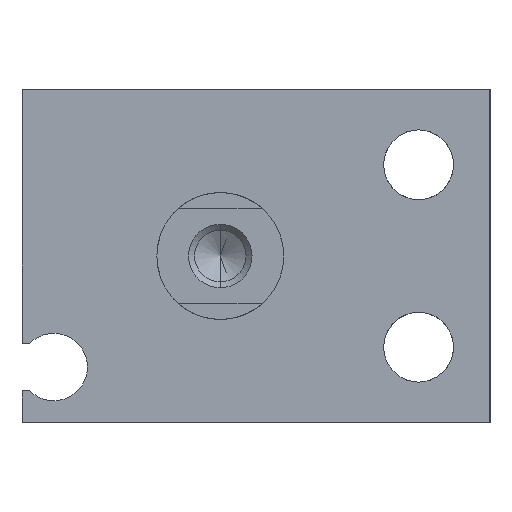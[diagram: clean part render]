
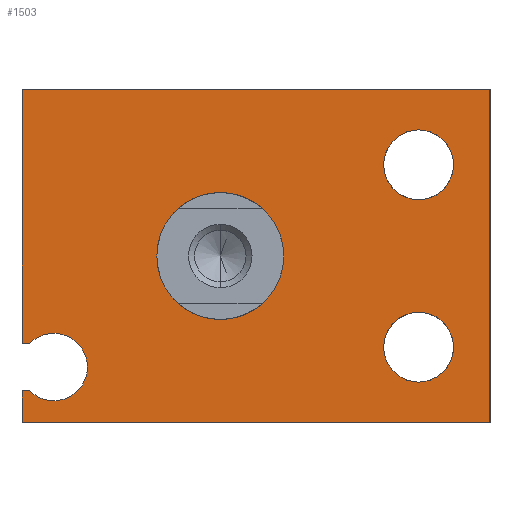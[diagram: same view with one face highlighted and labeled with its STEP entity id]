
A CAD part, left-side view. The second image highlights one B-rep face of the part: STEP entity #1503.
In plain terms, the highlighted planar face has unit normal (-1, 0, 0).
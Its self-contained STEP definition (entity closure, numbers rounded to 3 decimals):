
#4 = DIRECTION ( 'NONE',  ( -1., 0., 0. ) ) ;
#41 = FACE_BOUND ( 'NONE', #933, .T. ) ;
#58 = LINE ( 'NONE', #1511, #1146 ) ;
#78 = CARTESIAN_POINT ( 'NONE',  ( 0., 12.005, -8.5 ) ) ;
#82 = DIRECTION ( 'NONE',  ( 0., 0., 1. ) ) ;
#112 = DIRECTION ( 'NONE',  ( 0., -1., 0. ) ) ;
#120 = EDGE_CURVE ( 'NONE', #1887, #2742, #58, .T. ) ;
#129 = ORIENTED_EDGE ( 'NONE', *, *, #2900, .T. ) ;
#130 = DIRECTION ( 'NONE',  ( 0., 1., 0. ) ) ;
#138 = CARTESIAN_POINT ( 'NONE',  ( 0., 10.5, -4.875 ) ) ;
#153 = DIRECTION ( 'NONE',  ( 0., -1., 0. ) ) ;
#179 = CIRCLE ( 'NONE', #523, 2.2 ) ;
#213 = VERTEX_POINT ( 'NONE', #1525 ) ;
#346 = CIRCLE ( 'NONE', #3059, 2.2 ) ;
#347 = EDGE_CURVE ( 'NONE', #2978, #1825, #346, .T. ) ;
#362 = DIRECTION ( 'NONE',  ( -1., 0., 0. ) ) ;
#364 = LINE ( 'NONE', #1569, #3049 ) ;
#377 = DIRECTION ( 'NONE',  ( 0., 0., -1. ) ) ;
#523 = AXIS2_PLACEMENT_3D ( 'NONE', #2354, #2116, #2686 ) ;
#533 = VECTOR ( 'NONE', #130, 1000. ) ;
#568 = CARTESIAN_POINT ( 'NONE',  ( 0., -17., -10.5 ) ) ;
#576 = EDGE_CURVE ( 'NONE', #2742, #2004, #2969, .T. ) ;
#601 = CARTESIAN_POINT ( 'NONE',  ( 0., 10.5, -7. ) ) ;
#611 = EDGE_CURVE ( 'NONE', #1882, #1281, #740, .T. ) ;
#628 = CARTESIAN_POINT ( 'NONE',  ( 0., 12.5, -5.5 ) ) ;
#632 = AXIS2_PLACEMENT_3D ( 'NONE', #1972, #4, #981 ) ;
#664 = ORIENTED_EDGE ( 'NONE', *, *, #785, .F. ) ;
#689 = AXIS2_PLACEMENT_3D ( 'NONE', #601, #1829, #82 ) ;
#723 = VERTEX_POINT ( 'NONE', #1463 ) ;
#740 = CIRCLE ( 'NONE', #1810, 2.2 ) ;
#785 = EDGE_CURVE ( 'NONE', #723, #2850, #3016, .T. ) ;
#810 = AXIS2_PLACEMENT_3D ( 'NONE', #1622, #1358, #2325 ) ;
#863 = AXIS2_PLACEMENT_3D ( 'NONE', #2677, #1239, #2200 ) ;
#875 = EDGE_CURVE ( 'NONE', #2850, #1249, #2206, .T. ) ;
#890 = DIRECTION ( 'NONE',  ( 0., 0., 1. ) ) ;
#933 = EDGE_LOOP ( 'NONE', ( #1692, #1732 ) ) ;
#968 = ORIENTED_EDGE ( 'NONE', *, *, #1828, .F. ) ;
#981 = DIRECTION ( 'NONE',  ( 0., 0., 1. ) ) ;
#1018 = PLANE ( 'NONE',  #632 ) ;
#1037 = VECTOR ( 'NONE', #2007, 1000. ) ;
#1051 = LINE ( 'NONE', #78, #1037 ) ;
#1068 = VECTOR ( 'NONE', #377, 1000. ) ;
#1146 = VECTOR ( 'NONE', #112, 1000. ) ;
#1191 = EDGE_LOOP ( 'NONE', ( #3040, #2993 ) ) ;
#1195 = VERTEX_POINT ( 'NONE', #628 ) ;
#1219 = DIRECTION ( 'NONE',  ( 0., 0., 1. ) ) ;
#1234 = CARTESIAN_POINT ( 'NONE',  ( 0., 10.5, -7. ) ) ;
#1239 = DIRECTION ( 'NONE',  ( -1., 0., 0. ) ) ;
#1240 = ORIENTED_EDGE ( 'NONE', *, *, #3020, .F. ) ;
#1249 = VERTEX_POINT ( 'NONE', #3085 ) ;
#1253 = AXIS2_PLACEMENT_3D ( 'NONE', #1530, #2535, #2262 ) ;
#1268 = CARTESIAN_POINT ( 'NONE',  ( 0., -17., 10.5 ) ) ;
#1281 = VERTEX_POINT ( 'NONE', #2622 ) ;
#1358 = DIRECTION ( 'NONE',  ( 1., 0., 0. ) ) ;
#1400 = CIRCLE ( 'NONE', #2415, 4. ) ;
#1460 = CARTESIAN_POINT ( 'NONE',  ( 0., 12.5, 10.5 ) ) ;
#1463 = CARTESIAN_POINT ( 'NONE',  ( 0., 10.5, -9.125 ) ) ;
#1503 = ADVANCED_FACE ( 'NONE', ( #1730, #2208, #1948, #41 ), #1018, .T. ) ;
#1511 = CARTESIAN_POINT ( 'NONE',  ( 0., 12.5, -10.5 ) ) ;
#1524 = ORIENTED_EDGE ( 'NONE', *, *, #611, .F. ) ;
#1525 = CARTESIAN_POINT ( 'NONE',  ( 0., 0., 4. ) ) ;
#1530 = CARTESIAN_POINT ( 'NONE',  ( 0., 10.5, -7. ) ) ;
#1569 = CARTESIAN_POINT ( 'NONE',  ( 0., 12.5, 10.5 ) ) ;
#1592 = EDGE_LOOP ( 'NONE', ( #2633, #1782, #2665, #1630, #1830, #2749, #664, #968, #2155, #129 ) ) ;
#1622 = CARTESIAN_POINT ( 'NONE',  ( 0., 0., 0. ) ) ;
#1630 = ORIENTED_EDGE ( 'NONE', *, *, #1837, .T. ) ;
#1643 = AXIS2_PLACEMENT_3D ( 'NONE', #1234, #1959, #1219 ) ;
#1692 = ORIENTED_EDGE ( 'NONE', *, *, #347, .F. ) ;
#1725 = EDGE_CURVE ( 'NONE', #2004, #2081, #2040, .T. ) ;
#1730 = FACE_OUTER_BOUND ( 'NONE', #1592, .T. ) ;
#1732 = ORIENTED_EDGE ( 'NONE', *, *, #2388, .F. ) ;
#1782 = ORIENTED_EDGE ( 'NONE', *, *, #576, .T. ) ;
#1810 = AXIS2_PLACEMENT_3D ( 'NONE', #2084, #362, #890 ) ;
#1818 = CARTESIAN_POINT ( 'NONE',  ( 0., -12.5, -7.95 ) ) ;
#1825 = VERTEX_POINT ( 'NONE', #2536 ) ;
#1828 = EDGE_CURVE ( 'NONE', #1971, #723, #2061, .T. ) ;
#1829 = DIRECTION ( 'NONE',  ( -1., 0., 0. ) ) ;
#1830 = ORIENTED_EDGE ( 'NONE', *, *, #2912, .T. ) ;
#1837 = EDGE_CURVE ( 'NONE', #2081, #1195, #364, .T. ) ;
#1841 = CARTESIAN_POINT ( 'NONE',  ( 0., 12.005, -8.5 ) ) ;
#1857 = VECTOR ( 'NONE', #153, 1000. ) ;
#1882 = VERTEX_POINT ( 'NONE', #1818 ) ;
#1887 = VERTEX_POINT ( 'NONE', #2073 ) ;
#1948 = FACE_BOUND ( 'NONE', #3024, .T. ) ;
#1959 = DIRECTION ( 'NONE',  ( -1., 0., 0. ) ) ;
#1970 = EDGE_CURVE ( 'NONE', #2712, #213, #2569, .T. ) ;
#1971 = VERTEX_POINT ( 'NONE', #1841 ) ;
#1972 = CARTESIAN_POINT ( 'NONE',  ( 0., 10.5, -7. ) ) ;
#2004 = VERTEX_POINT ( 'NONE', #1268 ) ;
#2007 = DIRECTION ( 'NONE',  ( 0., 1., 0. ) ) ;
#2040 = LINE ( 'NONE', #2995, #533 ) ;
#2059 = VECTOR ( 'NONE', #2939, 1000. ) ;
#2061 = CIRCLE ( 'NONE', #689, 2.125 ) ;
#2073 = CARTESIAN_POINT ( 'NONE',  ( 0., 12.5, -10.5 ) ) ;
#2081 = VERTEX_POINT ( 'NONE', #1460 ) ;
#2084 = CARTESIAN_POINT ( 'NONE',  ( 0., -12.5, -5.75 ) ) ;
#2116 = DIRECTION ( 'NONE',  ( -1., 0., 0. ) ) ;
#2155 = ORIENTED_EDGE ( 'NONE', *, *, #3106, .T. ) ;
#2200 = DIRECTION ( 'NONE',  ( 0., 0., 1. ) ) ;
#2206 = CIRCLE ( 'NONE', #1253, 2.125 ) ;
#2208 = FACE_BOUND ( 'NONE', #1191, .T. ) ;
#2239 = VERTEX_POINT ( 'NONE', #2805 ) ;
#2262 = DIRECTION ( 'NONE',  ( 0., 0., 1. ) ) ;
#2265 = CARTESIAN_POINT ( 'NONE',  ( 0., 12.5, -5.5 ) ) ;
#2269 = DIRECTION ( 'NONE',  ( 0., 0., -1. ) ) ;
#2311 = LINE ( 'NONE', #2265, #1857 ) ;
#2321 = CIRCLE ( 'NONE', #863, 2.2 ) ;
#2325 = DIRECTION ( 'NONE',  ( 0., 0., -1. ) ) ;
#2354 = CARTESIAN_POINT ( 'NONE',  ( 0., -12.5, -5.75 ) ) ;
#2388 = EDGE_CURVE ( 'NONE', #1825, #2978, #2321, .T. ) ;
#2415 = AXIS2_PLACEMENT_3D ( 'NONE', #2510, #2568, #2269 ) ;
#2438 = CARTESIAN_POINT ( 'NONE',  ( 0., -17., -10.5 ) ) ;
#2451 = EDGE_CURVE ( 'NONE', #213, #2712, #1400, .T. ) ;
#2508 = LINE ( 'NONE', #2798, #1068 ) ;
#2510 = CARTESIAN_POINT ( 'NONE',  ( 0., 0., 0. ) ) ;
#2512 = DIRECTION ( 'NONE',  ( -1., 0., 0. ) ) ;
#2535 = DIRECTION ( 'NONE',  ( -1., 0., 0. ) ) ;
#2536 = CARTESIAN_POINT ( 'NONE',  ( 0., -12.5, 3.55 ) ) ;
#2568 = DIRECTION ( 'NONE',  ( 1., 0., 0. ) ) ;
#2569 = CIRCLE ( 'NONE', #810, 4. ) ;
#2622 = CARTESIAN_POINT ( 'NONE',  ( 0., -12.5, -3.55 ) ) ;
#2633 = ORIENTED_EDGE ( 'NONE', *, *, #120, .T. ) ;
#2665 = ORIENTED_EDGE ( 'NONE', *, *, #1725, .T. ) ;
#2677 = CARTESIAN_POINT ( 'NONE',  ( 0., -12.5, 5.75 ) ) ;
#2686 = DIRECTION ( 'NONE',  ( 0., 0., 1. ) ) ;
#2712 = VERTEX_POINT ( 'NONE', #2956 ) ;
#2742 = VERTEX_POINT ( 'NONE', #2438 ) ;
#2749 = ORIENTED_EDGE ( 'NONE', *, *, #875, .F. ) ;
#2750 = CARTESIAN_POINT ( 'NONE',  ( 0., -12.5, 5.75 ) ) ;
#2798 = CARTESIAN_POINT ( 'NONE',  ( 0., 12.5, -8.5 ) ) ;
#2803 = DIRECTION ( 'NONE',  ( 0., 0., 1. ) ) ;
#2805 = CARTESIAN_POINT ( 'NONE',  ( 0., 12.5, -8.5 ) ) ;
#2850 = VERTEX_POINT ( 'NONE', #138 ) ;
#2900 = EDGE_CURVE ( 'NONE', #2239, #1887, #2508, .T. ) ;
#2912 = EDGE_CURVE ( 'NONE', #1195, #1249, #2311, .T. ) ;
#2939 = DIRECTION ( 'NONE',  ( 0., 0., 1. ) ) ;
#2956 = CARTESIAN_POINT ( 'NONE',  ( 0., 0., -4. ) ) ;
#2969 = LINE ( 'NONE', #568, #2059 ) ;
#2974 = CARTESIAN_POINT ( 'NONE',  ( 0., -12.5, 7.95 ) ) ;
#2978 = VERTEX_POINT ( 'NONE', #2974 ) ;
#2993 = ORIENTED_EDGE ( 'NONE', *, *, #2451, .T. ) ;
#2995 = CARTESIAN_POINT ( 'NONE',  ( 0., -17., 10.5 ) ) ;
#2998 = DIRECTION ( 'NONE',  ( 0., 0., -1. ) ) ;
#3016 = CIRCLE ( 'NONE', #1643, 2.125 ) ;
#3020 = EDGE_CURVE ( 'NONE', #1281, #1882, #179, .T. ) ;
#3024 = EDGE_LOOP ( 'NONE', ( #1240, #1524 ) ) ;
#3040 = ORIENTED_EDGE ( 'NONE', *, *, #1970, .T. ) ;
#3049 = VECTOR ( 'NONE', #2998, 1000. ) ;
#3059 = AXIS2_PLACEMENT_3D ( 'NONE', #2750, #2512, #2803 ) ;
#3085 = CARTESIAN_POINT ( 'NONE',  ( 0., 12.005, -5.5 ) ) ;
#3106 = EDGE_CURVE ( 'NONE', #1971, #2239, #1051, .T. ) ;
